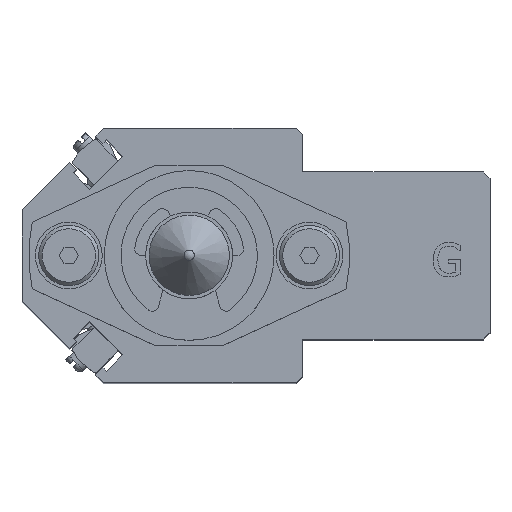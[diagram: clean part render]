
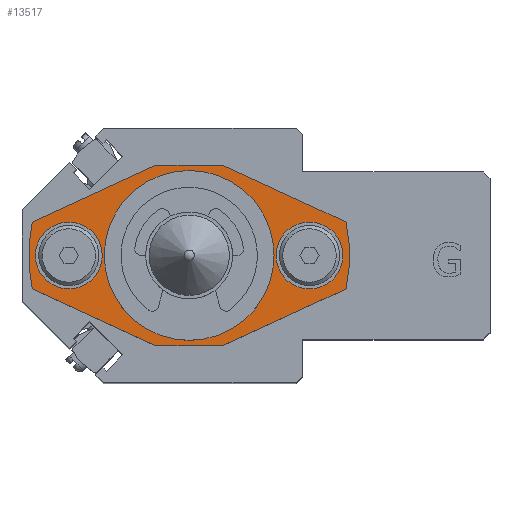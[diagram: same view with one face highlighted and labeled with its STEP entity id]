
A CAD part, top view. The second image highlights one B-rep face of the part: STEP entity #13517.
In plain terms, the highlighted planar face has unit normal (0, 0, 1).
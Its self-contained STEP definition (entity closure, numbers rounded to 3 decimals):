
#383=FACE_BOUND('',#4890,.T.);
#384=FACE_BOUND('',#4891,.T.);
#385=FACE_BOUND('',#4892,.T.);
#1576=LINE('',#22077,#2967);
#1583=LINE('',#22094,#2974);
#1584=LINE('',#22097,#2975);
#1585=LINE('',#22098,#2976);
#1586=LINE('',#22100,#2977);
#1587=LINE('',#22101,#2978);
#2967=VECTOR('',#17932,10.);
#2974=VECTOR('',#17947,10.);
#2975=VECTOR('',#17950,10.);
#2976=VECTOR('',#17951,10.);
#2977=VECTOR('',#17952,10.);
#2978=VECTOR('',#17953,10.);
#3458=CIRCLE('',#14797,10.5);
#3459=CIRCLE('',#14798,10.5);
#3466=CIRCLE('',#14809,24.);
#3468=CIRCLE('',#14812,24.);
#3471=CIRCLE('',#14819,5.);
#3472=CIRCLE('',#14820,5.);
#3473=CIRCLE('',#14821,5.);
#3474=CIRCLE('',#14822,5.);
#4180=FACE_OUTER_BOUND('',#4889,.T.);
#4889=EDGE_LOOP('',(#11295,#11296,#11297,#11298,#11299,#11300,#11301,#11302));
#4890=EDGE_LOOP('',(#11303,#11304));
#4891=EDGE_LOOP('',(#11305,#11306));
#4892=EDGE_LOOP('',(#11307,#11308));
#6125=VERTEX_POINT('',#22035);
#6126=VERTEX_POINT('',#22037);
#6134=VERTEX_POINT('',#22058);
#6135=VERTEX_POINT('',#22060);
#6138=VERTEX_POINT('',#22067);
#6139=VERTEX_POINT('',#22069);
#6141=VERTEX_POINT('',#22075);
#6147=VERTEX_POINT('',#22092);
#6148=VERTEX_POINT('',#22096);
#6149=VERTEX_POINT('',#22099);
#6150=VERTEX_POINT('',#22102);
#6151=VERTEX_POINT('',#22103);
#6152=VERTEX_POINT('',#22106);
#6153=VERTEX_POINT('',#22107);
#7914=EDGE_CURVE('',#6126,#6125,#3458,.T.);
#7915=EDGE_CURVE('',#6125,#6126,#3459,.T.);
#7924=EDGE_CURVE('',#6135,#6134,#3466,.T.);
#7928=EDGE_CURVE('',#6139,#6138,#3468,.T.);
#7932=EDGE_CURVE('',#6134,#6141,#1576,.T.);
#7941=EDGE_CURVE('',#6138,#6147,#1583,.T.);
#7942=EDGE_CURVE('',#6141,#6148,#1584,.T.);
#7943=EDGE_CURVE('',#6148,#6139,#1585,.T.);
#7944=EDGE_CURVE('',#6147,#6149,#1586,.T.);
#7945=EDGE_CURVE('',#6149,#6135,#1587,.T.);
#7946=EDGE_CURVE('',#6150,#6151,#3471,.T.);
#7947=EDGE_CURVE('',#6151,#6150,#3472,.T.);
#7948=EDGE_CURVE('',#6152,#6153,#3473,.T.);
#7949=EDGE_CURVE('',#6153,#6152,#3474,.T.);
#11295=ORIENTED_EDGE('',*,*,#7924,.T.);
#11296=ORIENTED_EDGE('',*,*,#7932,.T.);
#11297=ORIENTED_EDGE('',*,*,#7942,.T.);
#11298=ORIENTED_EDGE('',*,*,#7943,.T.);
#11299=ORIENTED_EDGE('',*,*,#7928,.T.);
#11300=ORIENTED_EDGE('',*,*,#7941,.T.);
#11301=ORIENTED_EDGE('',*,*,#7944,.T.);
#11302=ORIENTED_EDGE('',*,*,#7945,.T.);
#11303=ORIENTED_EDGE('',*,*,#7914,.T.);
#11304=ORIENTED_EDGE('',*,*,#7915,.T.);
#11305=ORIENTED_EDGE('',*,*,#7946,.T.);
#11306=ORIENTED_EDGE('',*,*,#7947,.T.);
#11307=ORIENTED_EDGE('',*,*,#7948,.T.);
#11308=ORIENTED_EDGE('',*,*,#7949,.T.);
#12720=PLANE('',#14818);
#13517=ADVANCED_FACE('',(#4180,#383,#384,#385),#12720,.T.);
#14797=AXIS2_PLACEMENT_3D('',#22038,#17891,#17892);
#14798=AXIS2_PLACEMENT_3D('',#22039,#17893,#17894);
#14809=AXIS2_PLACEMENT_3D('',#22061,#17917,#17918);
#14812=AXIS2_PLACEMENT_3D('',#22070,#17925,#17926);
#14818=AXIS2_PLACEMENT_3D('',#22095,#17948,#17949);
#14819=AXIS2_PLACEMENT_3D('',#22104,#17954,#17955);
#14820=AXIS2_PLACEMENT_3D('',#22105,#17956,#17957);
#14821=AXIS2_PLACEMENT_3D('',#22108,#17958,#17959);
#14822=AXIS2_PLACEMENT_3D('',#22109,#17960,#17961);
#17891=DIRECTION('center_axis',(0.,0.,-1.));
#17892=DIRECTION('ref_axis',(1.,0.,0.));
#17893=DIRECTION('center_axis',(0.,0.,-1.));
#17894=DIRECTION('ref_axis',(1.,0.,0.));
#17917=DIRECTION('center_axis',(0.,0.,1.));
#17918=DIRECTION('ref_axis',(0.978,-0.208,0.));
#17925=DIRECTION('center_axis',(0.,0.,1.));
#17926=DIRECTION('ref_axis',(-0.978,0.208,0.));
#17932=DIRECTION('',(0.908,-0.418,0.));
#17947=DIRECTION('',(-0.908,0.418,0.));
#17948=DIRECTION('center_axis',(0.,0.,1.));
#17949=DIRECTION('ref_axis',(1.,0.,0.));
#17950=DIRECTION('',(1.,0.,0.));
#17951=DIRECTION('',(0.908,0.418,0.));
#17952=DIRECTION('',(-1.,0.,0.));
#17953=DIRECTION('',(-0.908,-0.418,0.));
#17954=DIRECTION('center_axis',(0.,0.,-1.));
#17955=DIRECTION('ref_axis',(1.,0.,0.));
#17956=DIRECTION('center_axis',(0.,0.,-1.));
#17957=DIRECTION('ref_axis',(1.,0.,0.));
#17958=DIRECTION('center_axis',(0.,0.,-1.));
#17959=DIRECTION('ref_axis',(1.,0.,0.));
#17960=DIRECTION('center_axis',(0.,0.,-1.));
#17961=DIRECTION('ref_axis',(1.,0.,0.));
#22035=CARTESIAN_POINT('',(-10.5,0.,6.));
#22037=CARTESIAN_POINT('',(10.5,0.,6.));
#22038=CARTESIAN_POINT('Origin',(0.,0.,6.));
#22039=CARTESIAN_POINT('Origin',(0.,0.,6.));
#22058=CARTESIAN_POINT('',(-23.473,-5.001,6.));
#22060=CARTESIAN_POINT('',(-23.473,5.001,6.));
#22061=CARTESIAN_POINT('Origin',(0.,0.,6.));
#22067=CARTESIAN_POINT('',(23.473,5.001,6.));
#22069=CARTESIAN_POINT('',(23.473,-5.001,6.));
#22070=CARTESIAN_POINT('Origin',(0.,0.,6.));
#22075=CARTESIAN_POINT('',(-5.,-13.5,6.));
#22077=CARTESIAN_POINT('',(-15.7,-8.578,6.));
#22092=CARTESIAN_POINT('',(5.,13.5,6.));
#22094=CARTESIAN_POINT('',(15.7,8.578,6.));
#22095=CARTESIAN_POINT('Origin',(0.,0.,6.));
#22096=CARTESIAN_POINT('',(5.,-13.5,6.));
#22097=CARTESIAN_POINT('',(25.4,-13.5,6.));
#22098=CARTESIAN_POINT('',(15.7,-8.578,6.));
#22099=CARTESIAN_POINT('',(-5.,13.5,6.));
#22100=CARTESIAN_POINT('',(-25.4,13.5,6.));
#22101=CARTESIAN_POINT('',(-15.7,8.578,6.));
#22102=CARTESIAN_POINT('',(-13.,0.,6.));
#22103=CARTESIAN_POINT('',(-23.,0.,6.));
#22104=CARTESIAN_POINT('Origin',(-18.,0.,6.));
#22105=CARTESIAN_POINT('Origin',(-18.,0.,6.));
#22106=CARTESIAN_POINT('',(23.,0.,6.));
#22107=CARTESIAN_POINT('',(13.,0.,6.));
#22108=CARTESIAN_POINT('Origin',(18.,0.,6.));
#22109=CARTESIAN_POINT('Origin',(18.,0.,6.));
